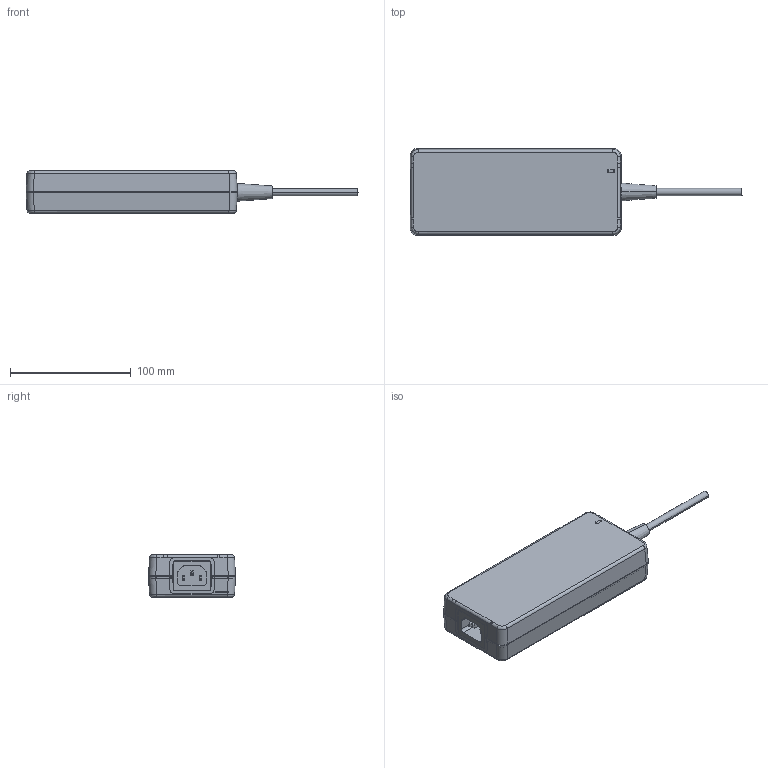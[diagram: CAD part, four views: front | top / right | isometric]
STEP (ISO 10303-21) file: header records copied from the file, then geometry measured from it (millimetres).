
FILE_DESCRIPTION(('Creo Elements/Direct Modeling STEP Export'),'2;1');
FILE_NAME('GSM160A-STEP.stp','2020-07-24T10:11:24',(''),(''),'PTC Creo Elements/Direct Modeling STEP processor for AP214 (Solid Model)','PTC Creo Elements/Direct Modeling 19.0E 27-Jun-2016 (C) Parametric Technology GmbH','');
FILE_SCHEMA(('AUTOMOTIVE_DESIGN { 1 0 10303 214 1 1 1 1 }'));
Length unit declared in the file: millimetre
Products named in the file (36): GS160A-T; Admi8A90habe; GS-160A-T-LENS.stp; GS160A-D; gs160a-t; case; p1.1; pin.1.2.1.1; HS-395A; p1; HS-396C; ssss; HS-397B; SHS-004A; p1.1.1.1.1.1; a1; SHS-SZ006; 1HH2GSM160A1; 1HH2GSM160A; hs; PCBA; pcb; PCB; PCB.4; MOS15.5x10.1.1.1.1.1.1.1.1.1; uu.3.2; MOS; PCB.2; o; PART; DC_CABLE.1.1; SOKECT.1; a4; 装配1; GSM160A
Assembly tree (45 placements, depth 5):
  GSM160A
    装配1
      a4
        SOKECT.1
      DC_CABLE.1.1
    PART
      o
      PCB.2
      MOS
        uu.3.2
        MOS15.5x10.1.1.1.1.1.1.1.1.1  x6
      PCB.4
      PCB
    pcb
      PCBA
    hs
      1HH2GSM160A
      1HH2GSM160A1
      SHS-SZ006
        p1
        a1
          p1.1.1.1.1.1  x2
      SHS-004A
      HS-397B
        pin.1.2.1.1  x2
        ssss
      HS-396C
        pin.1.2.1.1
        p1
      HS-395A
        pin.1.2.1.1  x2
        p1.1
    case
      gs160a-t
        GS160A-D
        GS-160A-T-LENS.stp
          Admi8A90habe
        GS160A-T
Bounding box: 275.28 x 72.1 x 35 mm (x, y, z)
Volume: 233614.9 mm3; surface area: 276337.4 mm2
Topology: 31 solids, 35 shells, 1303 faces, 3437 edges, 2264 vertices
Faces by surface type: plane 805, cylinder 346, cone 94, torus 52, bspline 6
Entity records: 35046 total; most frequent: CARTESIAN_POINT 7464, ORIENTED_EDGE 5682, DIRECTION 5138, EDGE_CURVE 2837, VERTEX_POINT 1862, VECTOR 1836, LINE 1836, AXIS2_PLACEMENT_3D 1651
